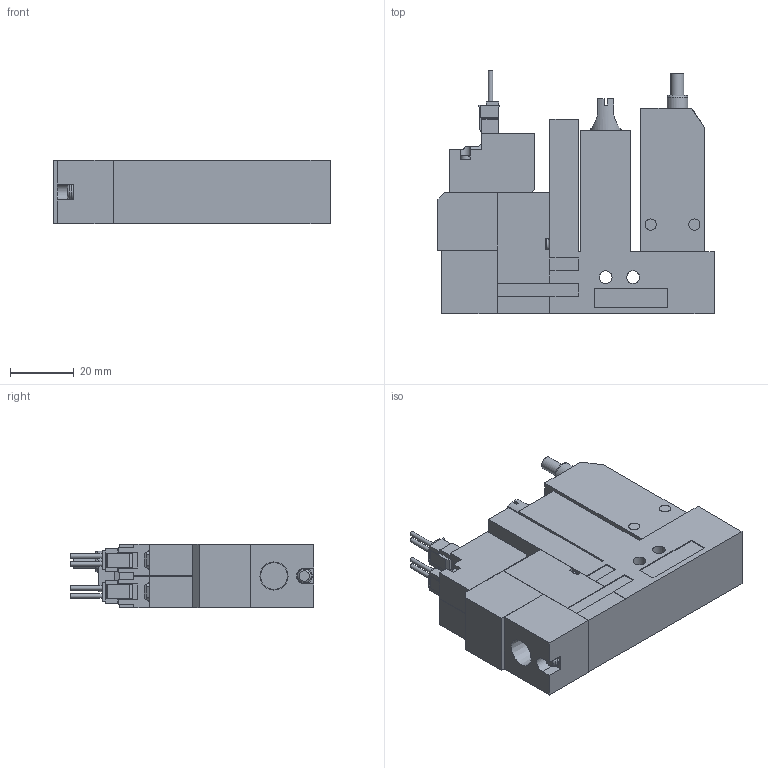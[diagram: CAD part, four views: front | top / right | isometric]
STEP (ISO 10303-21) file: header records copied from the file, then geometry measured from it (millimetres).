
FILE_DESCRIPTION(('STEP AP203'),'1');
FILE_NAME('ABS_ABPL5BLR.stp','2025-02-17T00:05:13',(' '),(' '),'Spatial InterOp 3D',' ',' ');
FILE_SCHEMA(('CONFIG_CONTROL_DESIGN'));
Length unit declared in the file: millimetre
Products named in the file (5): BMC22S※※※※ABS_ABPL5BLR; Solenoid valve B; Pressure sensor ABSL; Unit L; Base SR10R
Assembly tree (4 placements, depth 2):
  BMC22S※※※※ABS_ABPL5BLR
    Solenoid valve B
    Pressure sensor ABSL
    Unit L
    Base SR10R
Bounding box: 86.6 x 76.45 x 20 mm (x, y, z)
Volume: 88866.8 mm3; surface area: 24312.5 mm2
Topology: 4 solids, 4 shells, 354 faces, 939 edges, 620 vertices
Faces by surface type: plane 304, cylinder 40, cone 6, torus 4
Full cylindrical faces by diameter (mm): 1.4 x4, 2.5 x1, 3 x4, 3.5 x6, 3.6 x1, 4 x3, 4.134 x1, 6 x1, 6.5 x1
Entity records: 10967 total; most frequent: CARTESIAN_POINT 1969, ORIENTED_EDGE 1800, DIRECTION 1735, EDGE_CURVE 900, LINE 775, VECTOR 775, VERTEX_POINT 614, AXIS2_PLACEMENT_3D 480
